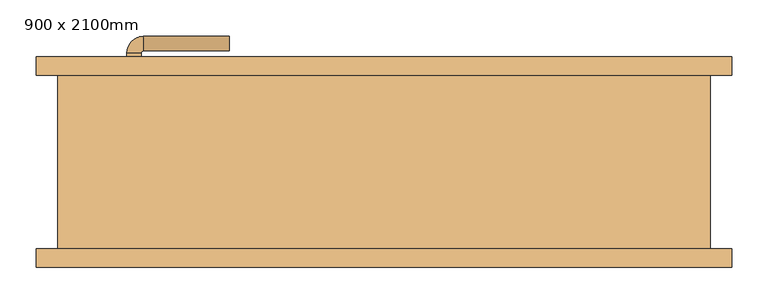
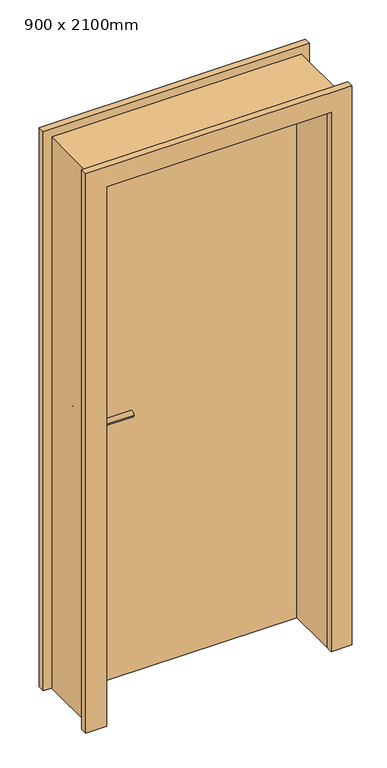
"""IFC4 building model written with IfcOpenShell, lengths in millimetres: door geometry, 单嵌板木门 1 : 900 x 2100mm."""

from ifc_helpers import new_model, si_unit, point, frame, frame_2d, origin, origin_with_axes, place, context, project, spatial, polyline, circle_curve, ellipse_curve, trimmed, segment, composite_curve, outline, extrude, source, transform, mapped, element, save
from ifc_brep_helpers import plane_surface, cylinder_surface, revolved_surface, advanced_brep


def door_900_x_2100mm_2716a3da(model_context):
    return source(origin(), model_context, "Body", "SolidModel", [
        extrude(outline(composite_curve([segment(trimmed(circle_curve(frame_2d((900.0, -345.0)), 25.0), [point((900.0, -320.0))], [point((900.0, -370.0))], False, "CARTESIAN"), True, "CONTINUOUS"), segment(trimmed(circle_curve(frame_2d((900.0, -345.0)), 25.0), [point((900.0, -370.0))], [point((900.0, -320.0))], False, "CARTESIAN"), True, "CONTINUOUS")], self_intersect=False)), frame((0.0, 60.0, 0.0), z_axis=(0.0, 1.0, 0.0), x_axis=(0.0, 0.0, 1.0)), (0.0, 0.0, 1.0), 10.0),
        extrude(outline(composite_curve([segment(trimmed(circle_curve(frame_2d((900.0, -345.0)), 25.0), [point((900.0, -320.0))], [point((900.0, -370.0))], False, "CARTESIAN"), True, "CONTINUOUS"), segment(trimmed(circle_curve(frame_2d((900.0, -345.0)), 25.0), [point((900.0, -370.0))], [point((900.0, -320.0))], False, "CARTESIAN"), True, "CONTINUOUS")], self_intersect=False)), frame((0.0, 120.0, 0.0), z_axis=(0.0, 1.0, 0.0), x_axis=(0.0, 0.0, 1.0)), (0.0, 0.0, 1.0), 10.0),
        advanced_brep(
        [(-355.0, 60.0, 1020.0), (-335.0, 60.0, 1020.0), (-335.0, 39.386645, 1020.0), (-355.0, 39.386645, 1020.0), (-213.419036, 16.419036, 1020.0), (-213.419036, 36.419036, 1020.0), (-332.0323911, 36.419036, 1020.0), (-332.0323911, 16.419036, 1020.0)],
        [
            (0, 1, circle_curve(frame((-345.0, 60.0, 1020.0), z_axis=(0.0, 1.0, 0.0), x_axis=(1.0, 0.0, 0.0)), 10.0)),
            (1, 0, circle_curve(frame((-345.0, 60.0, 1020.0), z_axis=(0.0, 1.0, 0.0), x_axis=(1.0, 0.0, 0.0)), 10.0)),
            (1, 2),
            (2, 3, circle_curve(frame((-345.0, 39.386645, 1020.0), z_axis=(0.0, 1.0, 0.0), x_axis=(1.0, 0.0, 0.0)), 10.0)),
            (3, 0),
            (3, 2, circle_curve(frame((-345.0, 39.386645, 1020.0), z_axis=(0.0, 1.0, 0.0), x_axis=(1.0, 0.0, 0.0)), 10.0)),
            (4, 5, circle_curve(frame((-213.419036, 26.419036, 1020.0), z_axis=(1.0, 0.0, 0.0), x_axis=(0.0, 1.0, 0.0)), 10.0)),
            (5, 4, circle_curve(frame((-213.419036, 26.419036, 1020.0), z_axis=(1.0, 0.0, 0.0), x_axis=(0.0, 1.0, 0.0)), 10.0)),
            (6, 2, circle_curve(frame((-332.0323911, 39.386645, 1020.0), z_axis=(0.0, 0.0, -1.0), x_axis=(-1.0, 0.0, 0.0)), 2.9676089)),
            (3, 7, circle_curve(frame((-332.0323911, 39.386645, 1020.0), z_axis=(0.0, 0.0, 1.0), x_axis=(-1.0, 0.0, 0.0)), 22.9676089)),
            (7, 6, circle_curve(frame((-332.0323911, 26.419036, 1020.0), z_axis=(-1.0, 0.0, 0.0), x_axis=(0.0, 1.0, 0.0)), 10.0)),
            (6, 7, circle_curve(frame((-332.0323911, 26.419036, 1020.0), z_axis=(-1.0, 0.0, 0.0), x_axis=(0.0, 1.0, 0.0)), 10.0)),
            (7, 4),
            (5, 6),
        ],
        [
            plane_surface(frame((-345.0, 60.0, 900.0), z_axis=(0.0, 1.0, 0.0), x_axis=(0.0, 0.0, 1.0))),
            cylinder_surface(frame((-345.0, 60.0, 1020.0), z_axis=(0.0, 1.0, 0.0), x_axis=(1.0, 0.0, 0.0)), 10.0),
            plane_surface(frame((-213.419036, 26.419036, 900.0), z_axis=(1.0, 0.0, 0.0), x_axis=(0.0, 0.0, 1.0))),
            revolved_surface(trimmed(ellipse_curve(frame((-345.0, 39.386645, 1020.0), z_axis=(0.0, 1.0, 0.0), x_axis=(1.0, 0.0, 0.0)), 10.0, 10.0), [point((-355.0, 39.386645, 1020.0))], [point((-335.0, 39.386645, 1020.0))], True, "CARTESIAN"), (-332.0323911, 39.386645, 900.0), (0.0, 0.0, 1.0)),
            revolved_surface(trimmed(ellipse_curve(frame((-345.0, 39.386645, 1020.0), z_axis=(0.0, 1.0, 0.0), x_axis=(1.0, 0.0, 0.0)), 10.0, 10.0), [point((-335.0, 39.386645, 1020.0))], [point((-355.0, 39.386645, 1020.0))], True, "CARTESIAN"), (-332.0323911, 39.386645, 900.0), (0.0, 0.0, 1.0)),
            cylinder_surface(frame((-332.0323911, 26.419036, 1020.0), z_axis=(-1.0, 0.0, 0.0), x_axis=(0.0, 1.0, 0.0)), 10.0),
        ],
        [
            (0, [[1, 2]]),
            (1, [[-2, 3, 4, 5]]),
            (1, [[-1, -5, 6, -3]]),
            (2, [[7, 8]]),
            (3, [[9, -6, 10, 11]]),
            (4, [[-10, -4, -9, 12]]),
            (5, [[-11, 13, -8, 14]]),
            (5, [[-12, -14, -7, -13]]),
        ],
    ),
        extrude(outline(composite_curve([segment(trimmed(circle_curve(frame_2d((1020.0, -345.0)), 25.0), [point((1020.0, -320.0))], [point((1020.0, -370.0))], False, "CARTESIAN"), True, "CONTINUOUS"), segment(trimmed(circle_curve(frame_2d((1020.0, -345.0)), 25.0), [point((1020.0, -370.0))], [point((1020.0, -320.0))], False, "CARTESIAN"), True, "CONTINUOUS")], self_intersect=False)), frame((0.0, 60.0, 0.0), z_axis=(0.0, 1.0, 0.0), x_axis=(0.0, 0.0, 1.0)), (0.0, 0.0, 1.0), 10.0),
        advanced_brep(
        [(-335.0, 130.0, 1020.0), (-355.0, 130.0, 1020.0), (-335.0, 150.6133551, 1020.0), (-355.0, 150.6133551, 1020.0), (-213.419036, 153.580964, 1020.0), (-213.419036, 173.580964, 1020.0), (-332.0323911, 173.580964, 1020.0), (-332.0323911, 153.580964, 1020.0)],
        [
            (0, 1, circle_curve(frame((-345.0, 130.0, 1020.0), z_axis=(0.0, -1.0, 0.0), x_axis=(-1.0, 0.0, 0.0)), 10.0)),
            (1, 0, circle_curve(frame((-345.0, 130.0, 1020.0), z_axis=(0.0, -1.0, 0.0), x_axis=(-1.0, 0.0, 0.0)), 10.0)),
            (0, 2),
            (2, 3, circle_curve(frame((-345.0, 150.6133551, 1020.0), z_axis=(0.0, -1.0, 0.0), x_axis=(-1.0, 0.0, 0.0)), 10.0)),
            (3, 1),
            (3, 2, circle_curve(frame((-345.0, 150.6133551, 1020.0), z_axis=(0.0, -1.0, 0.0), x_axis=(-1.0, 0.0, 0.0)), 10.0)),
            (4, 5, circle_curve(frame((-213.419036, 163.580964, 1020.0), z_axis=(1.0, 0.0, 0.0), x_axis=(0.0, 1.0, 0.0)), 10.0)),
            (5, 4, circle_curve(frame((-213.419036, 163.580964, 1020.0), z_axis=(1.0, 0.0, 0.0), x_axis=(0.0, 1.0, 0.0)), 10.0)),
            (6, 3, circle_curve(frame((-332.0323911, 150.6133551, 1020.0), z_axis=(0.0, 0.0, 1.0), x_axis=(-1.0, 0.0, 0.0)), 22.9676089)),
            (2, 7, circle_curve(frame((-332.0323911, 150.6133551, 1020.0), z_axis=(0.0, 0.0, -1.0), x_axis=(-1.0, 0.0, 0.0)), 2.9676089)),
            (7, 6, circle_curve(frame((-332.0323911, 163.580964, 1020.0), z_axis=(-1.0, 0.0, 0.0), x_axis=(0.0, 1.0, 0.0)), 10.0)),
            (6, 7, circle_curve(frame((-332.0323911, 163.580964, 1020.0), z_axis=(-1.0, 0.0, 0.0), x_axis=(0.0, 1.0, 0.0)), 10.0)),
            (7, 4),
            (5, 6),
        ],
        [
            plane_surface(frame((-345.0, 130.0, 900.0), z_axis=(0.0, -1.0, 0.0), x_axis=(0.0, 0.0, 1.0))),
            cylinder_surface(frame((-345.0, 130.0, 1020.0), z_axis=(0.0, -1.0, 0.0), x_axis=(-1.0, 0.0, 0.0)), 10.0),
            plane_surface(frame((-213.419036, 163.580964, 900.0), z_axis=(1.0, 0.0, 0.0), x_axis=(0.0, 0.0, 1.0))),
            revolved_surface(trimmed(ellipse_curve(frame((-345.0, 150.6133551, 1020.0), z_axis=(0.0, -1.0, 0.0), x_axis=(-1.0, 0.0, 0.0)), 10.0, 10.0), [point((-335.0, 150.6133551, 1020.0))], [point((-355.0, 150.6133551, 1020.0))], True, "CARTESIAN"), (-332.0323911, 150.6133551, 900.0), (0.0, 0.0, -1.0)),
            revolved_surface(trimmed(ellipse_curve(frame((-345.0, 150.6133551, 1020.0), z_axis=(0.0, -1.0, 0.0), x_axis=(-1.0, 0.0, 0.0)), 10.0, 10.0), [point((-355.0, 150.6133551, 1020.0))], [point((-335.0, 150.6133551, 1020.0))], True, "CARTESIAN"), (-332.0323911, 150.6133551, 900.0), (0.0, 0.0, -1.0)),
            cylinder_surface(frame((-332.0323911, 163.580964, 1020.0), z_axis=(-1.0, 0.0, 0.0), x_axis=(0.0, 1.0, 0.0)), 10.0),
        ],
        [
            (0, [[1, 2]]),
            (1, [[-1, 3, 4, 5]]),
            (1, [[-2, -5, 6, -3]]),
            (2, [[7, 8]]),
            (3, [[9, -4, 10, 11]]),
            (4, [[-10, -6, -9, 12]]),
            (5, [[-11, 13, -8, 14]]),
            (5, [[-12, -14, -7, -13]]),
        ],
    ),
        extrude(outline(composite_curve([segment(trimmed(circle_curve(frame_2d((1020.0, -345.0)), 25.0), [point((1020.0, -320.0))], [point((1020.0, -370.0))], False, "CARTESIAN"), True, "CONTINUOUS"), segment(trimmed(circle_curve(frame_2d((1020.0, -345.0)), 25.0), [point((1020.0, -370.0))], [point((1020.0, -320.0))], False, "CARTESIAN"), True, "CONTINUOUS")], self_intersect=False)), frame((0.0, 120.0, 0.0), z_axis=(0.0, 1.0, 0.0), x_axis=(0.0, 0.0, 1.0)), (0.0, 0.0, 1.0), 10.0),
        extrude(outline(polyline([(0.0, 480.0), (2130.0, 480.0), (2130.0, -480.0), (0.0, -480.0), (0.0, -405.0), (2055.0, -405.0), (2055.0, 405.0), (0.0, 405.0), (0.0, 480.0)])), frame((0.0, 120.0, 0.0), z_axis=(0.0, 1.0, 0.0), x_axis=(0.0, 0.0, 1.0)), (0.0, 0.0, 1.0), 25.0),
        extrude(outline(polyline([(2130.0, 480.0), (2130.0, -480.0), (0.0, -480.0), (0.0, -405.0), (2055.0, -405.0), (2055.0, 405.0), (0.0, 405.0), (0.0, 480.0), (2130.0, 480.0)])), frame((0.0, -145.0, 0.0), z_axis=(0.0, 1.0, 0.0), x_axis=(0.0, 0.0, 1.0)), (0.0, 0.0, 1.0), 25.0),
        extrude(outline(polyline([(405.0, 70.0), (-405.0, 70.0), (-405.0, 120.0), (405.0, 120.0), (405.0, 70.0)])), origin_with_axes(), (0.0, 0.0, 1.0), 2055.0),
        extrude(outline(polyline([(2100.0, -450.0), (0.0, -450.0), (0.0, -405.0), (2055.0, -405.0), (2055.0, 405.0), (0.0, 405.0), (0.0, 450.0), (2100.0, 450.0), (2100.0, -450.0)])), frame((0.0, -120.0, 0.0), z_axis=(0.0, 1.0, 0.0), x_axis=(0.0, 0.0, 1.0)), (0.0, 0.0, 1.0), 240.0),
    ])


if __name__ == "__main__":
    model = new_model("IFC4")
    model_context = context("Model", 3, world=origin())
    ifc_project = project(units=[si_unit("LENGTHUNIT", "METRE", prefix="MILLI")], contexts=[model_context])
    site = spatial("IfcSite", under=ifc_project)
    building = spatial("IfcBuilding", under=site)
    placement = place(None, origin())
    door_900_x_2100mm_shape = door_900_x_2100mm_2716a3da(model_context)
    element("IfcDoor", 1, ObjectType="单嵌板木门 1 : 900 x 2100mm", at=placement, inside=building, context=model_context, shape_type="MappedRepresentation", body=[
        mapped(door_900_x_2100mm_shape, transform((0.0, 0.0, 0.0), x_axis=(1.0, 0.0, 0.0), y_axis=(0.0, 1.0, 0.0), z_axis=(0.0, 0.0, 1.0))),
    ])
    save(model, "model.ifc")
